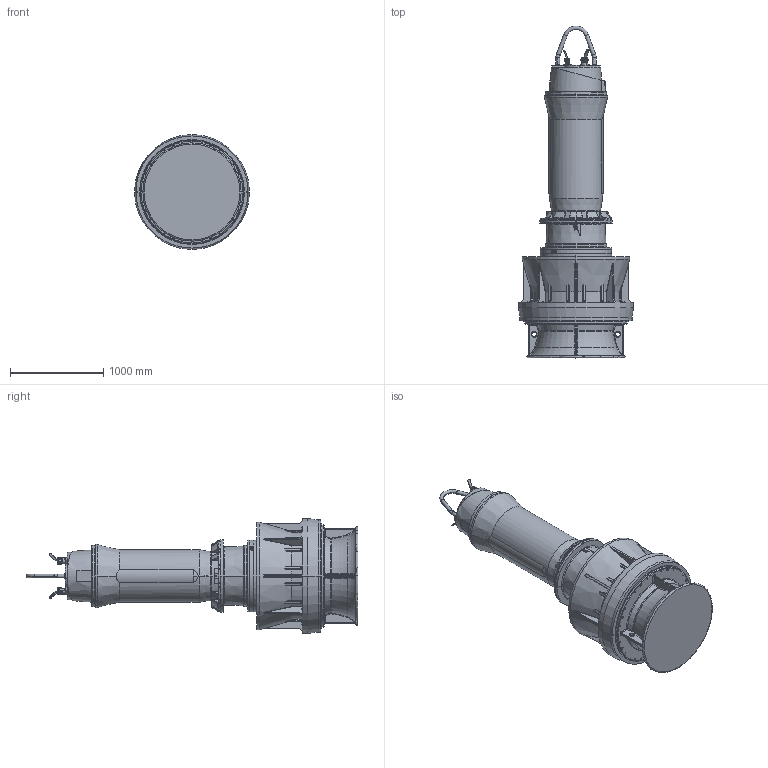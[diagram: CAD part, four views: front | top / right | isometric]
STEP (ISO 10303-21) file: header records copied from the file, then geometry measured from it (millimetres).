
FILE_DESCRIPTION (( 'STEP AP214' ), '1' );
FILE_NAME ('PE7_VUPX1000G3_STD_B.STEP', '2017-05-04T13:02:36', ( '' ), ( '' ), 'SwSTEP 2.0', 'SolidWorks 2017', '' );
FILE_SCHEMA (( 'AUTOMOTIVE_DESIGN' ));
Length unit declared in the file: millimetre
Products named in the file (1): PE7_VUPX1000G3_STD_B
Bounding box: 1230 x 3553 x 1230 mm (x, y, z)
Volume: 1424614230.4 mm3; surface area: 14122763 mm2
Topology: 3 solids, 36 shells, 3668 faces, 8949 edges, 5179 vertices
Faces by surface type: cylinder 919, plane 866, bspline 848, torus 472, cone 398, sphere 165
Entity records: 193338 total; most frequent: CARTESIAN_POINT 74501, ORIENTED_EDGE 17294, DIRECTION 15308, EDGE_CURVE 8647, AXIS2_PLACEMENT_3D 6300, VERTEX_POINT 5174, EDGE_LOOP 3869, UNCERTAINTY_MEASURE_WITH_UNIT 3673
